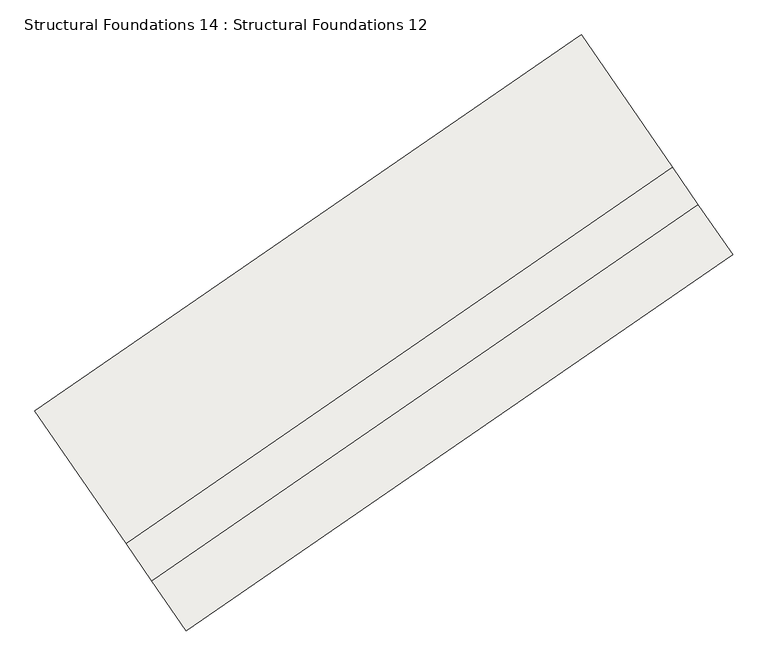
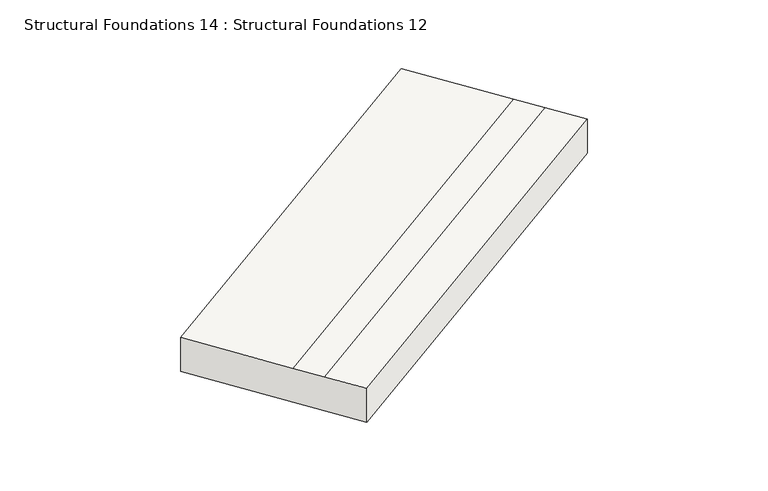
"""IFC4 building model written with IfcOpenShell, lengths in millimetres: slab geometry, Structural Foundations 14 : Structural Foundations 12."""

import ifcopenshell
import ifcopenshell.guid

model = None  # the IFC model being written
_history = None  # IfcOwnerHistory: only IFC2X3 demands one
_inside = {}  # id of a spatial element -> (the spatial element, [elements in it])
_under = {}  # id of a project, library or spatial element -> (it, [spatial elements below it])
_declared = {}  # id of a project -> (the project, [libraries it declares])
_typed = {}  # id of a type object -> (the type object, [elements of that type])
_made_of = {}  # id of a material, layer set ... -> (it, [elements and type objects made of it])


def new_model(schema):
    """Start an empty IFC model of exactly this schema.

    Asked for "IFC4X3", IfcOpenShell would pick the latest addendum, in which some entities
    have other attributes; the version numbers below select the first issue.
    IFC2X3 requires an IfcOwnerHistory on every rooted entity: one is made here for all.
    """
    global model, _history
    if schema == "IFC4X3":
        model = ifcopenshell.file(schema_version=(4, 3, 0, 0))
    else:
        model = ifcopenshell.file(schema=schema)
    _inside.clear()
    _under.clear()
    _declared.clear()
    _typed.clear()
    _made_of.clear()
    _history = None
    if model.schema == "IFC2X3":
        org = make("IfcOrganization", Name="unknown")
        user = make(
            "IfcPersonAndOrganization",
            ThePerson=make("IfcPerson", FamilyName="unknown"),
            TheOrganization=org,
        )
        app = make(
            "IfcApplication",
            ApplicationDeveloper=org,
            Version="unknown",
            ApplicationFullName="unknown",
            ApplicationIdentifier="unknown",
        )
        _history = make(
            "IfcOwnerHistory",
            OwningUser=user,
            OwningApplication=app,
            ChangeAction="ADDED",
            CreationDate=0,
        )
    return model


def make(cls, **values):
    """One entity of the class cls with the attributes given. An attribute that is None is left unset."""
    return model.create_entity(
        cls, **{name: value for name, value in values.items() if value is not None}
    )


def rooted(cls, **values):
    """An entity with a GlobalId (a new one), such as an element, a storey or a relation."""
    return make(cls, GlobalId=ifcopenshell.guid.new(), OwnerHistory=_history, **values)


def si_unit(unit_type, name, prefix=None):
    """IfcSIUnit, for example si_unit("LENGTHUNIT", "METRE", prefix="MILLI")."""
    return make("IfcSIUnit", UnitType=unit_type, Prefix=prefix, Name=name)


def assignment(units):
    """IfcUnitAssignment: the units of a project."""
    return None if units is None else make("IfcUnitAssignment", Units=units)


def point(xyz):
    """IfcCartesianPoint."""
    return None if xyz is None else make("IfcCartesianPoint", Coordinates=xyz)


def direction(xyz):
    """IfcDirection."""
    return None if xyz is None else make("IfcDirection", DirectionRatios=xyz)


def frame(location, z_axis=None, x_axis=None):
    """IfcAxis2Placement3D, a coordinate frame: its origin and axes. An axis left out is left unset."""
    return make(
        "IfcAxis2Placement3D",
        Location=point(location),
        Axis=direction(z_axis),
        RefDirection=direction(x_axis),
    )


def origin():
    """The frame at (0, 0, 0) with its axes left unset."""
    return frame((0.0, 0.0, 0.0))


def place(relative_to, where):
    """IfcLocalPlacement: puts the frame where relative to a parent placement (None: the world)."""
    return make(
        "IfcLocalPlacement", PlacementRelTo=relative_to, RelativePlacement=where
    )


def context(
    kind, dimensions, precision=None, world=None, true_north=None, identifier=None
):
    """IfcGeometricRepresentationContext, for example the 3D "Model" context."""
    return make(
        "IfcGeometricRepresentationContext",
        ContextIdentifier=identifier,
        ContextType=kind,
        CoordinateSpaceDimension=dimensions,
        Precision=precision,
        WorldCoordinateSystem=world,
        TrueNorth=true_north,
    )


def project(units=None, contexts=None):
    """IfcProject with its units and contexts."""
    return rooted(
        "IfcProject",
        Name="project",
        RepresentationContexts=contexts,
        UnitsInContext=assignment(units),
    )


def spatial(cls, under=None, at=None, **own):
    """A site, building, storey or space (cls), placed at a placement, below another one or the project."""
    s = rooted(cls, ObjectPlacement=at, **own)
    if under is not None:
        _under.setdefault(under.id(), (under, []))[1].append(s)
    return s


def faces_of(points, faces, orient=None, outer=None):
    """IfcFace entities. A face is a list of loops; a loop is a list of indices into points, from 0.

    orient and outer hold one flag for each loop. By default every Orientation is true, the
    first loop of a face is its IfcFaceOuterBound and the others are IfcFaceBound.
    """
    made = []
    for i, loops in enumerate(faces):
        bounds = []
        for j, loop in enumerate(loops):
            is_outer = j == 0 if outer is None else outer[i][j]
            bounds.append(
                make(
                    "IfcFaceOuterBound" if is_outer else "IfcFaceBound",
                    Bound=make("IfcPolyLoop", Polygon=[points[k] for k in loop]),
                    Orientation=True if orient is None else orient[i][j],
                )
            )
        made.append(make("IfcFace", Bounds=bounds))
    return made


def faceted_brep(points, faces, orient=None, outer=None, voids=None):
    """IfcFacetedBrep: a solid bounded by flat faces; with voids (closed shells), ...WithVoids."""
    shared = [point(p) for p in points]
    hull = make("IfcClosedShell", CfsFaces=faces_of(shared, faces, orient, outer))
    if voids is None:
        return make("IfcFacetedBrep", Outer=hull)
    return make(
        "IfcFacetedBrepWithVoids",
        Outer=hull,
        Voids=[
            make(cls, CfsFaces=faces_of(shared, fs, o, b)) for cls, fs, o, b in voids
        ],
    )


def shape(context_of_items, identifier, shape_type, items):
    """IfcShapeRepresentation: the items that make up one representation, for example the "Body"."""
    return make(
        "IfcShapeRepresentation",
        ContextOfItems=context_of_items,
        RepresentationIdentifier=identifier,
        RepresentationType=shape_type,
        Items=items,
    )


def source(mapping_origin, context_of_items, identifier, shape_type, items):
    """IfcRepresentationMap: a shape defined once, which mapped items show again and again."""
    return make(
        "IfcRepresentationMap",
        MappingOrigin=mapping_origin,
        MappedRepresentation=shape(context_of_items, identifier, shape_type, items),
    )


def transform(
    local_origin,
    x_axis=None,
    y_axis=None,
    z_axis=None,
    scale=None,
    scale2=None,
    scale3=None,
    uniform=True,
):
    """IfcCartesianTransformationOperator3D, or its non-uniform kind. x_axis, y_axis, z_axis: its Axis1, 2, 3."""
    if uniform:
        return make(
            "IfcCartesianTransformationOperator3D",
            Axis1=direction(x_axis),
            Axis2=direction(y_axis),
            LocalOrigin=point(local_origin),
            Scale=scale,
            Axis3=direction(z_axis),
        )
    return make(
        "IfcCartesianTransformationOperator3DnonUniform",
        Axis1=direction(x_axis),
        Axis2=direction(y_axis),
        LocalOrigin=point(local_origin),
        Scale=scale,
        Axis3=direction(z_axis),
        Scale2=scale2,
        Scale3=scale3,
    )


def mapped(mapping_source, mapping_target):
    """IfcMappedItem: shows the shape of a source again, moved by a transform."""
    return make(
        "IfcMappedItem", MappingSource=mapping_source, MappingTarget=mapping_target
    )


def made_of(thing, what):
    """Note that an element or type object is made of a material, layer set ...; save() writes the relation."""
    if what is not None:
        _made_of.setdefault(what.id(), (what, []))[1].append(thing)
    return thing


def element(
    cls,
    number,
    at=None,
    inside=None,
    cuts=None,
    type_object=None,
    material=None,
    context=None,
    identifier="Body",
    shape_type=None,
    held_by="IfcProductDefinitionShape",
    body=None,
    shapes=None,
    **own,
):
    """One element of the class cls, such as IfcWall. Its Tag is "e" and its number.

    at: its placement. inside: the storey or other place that contains it. cuts: it is an
    opening in that element (IfcRelVoidsElement). A single representation is given by context,
    identifier, shape_type and body (its items); several are given by shapes. held_by: the class
    of the entity that holds the representations. save() writes the other relations.
    """
    e = rooted(cls, Tag="e%d" % number, ObjectPlacement=at, **own)
    if body is not None:
        shapes = [shape(context, identifier, shape_type, body)]
    if shapes is not None:
        e.Representation = make(held_by, Representations=shapes)
    if inside is not None:
        _inside.setdefault(inside.id(), (inside, []))[1].append(e)
    if cuts is not None:
        rooted(
            "IfcRelVoidsElement", RelatingBuildingElement=cuts, RelatedOpeningElement=e
        )
    if type_object is not None:
        _typed.setdefault(type_object.id(), (type_object, []))[1].append(e)
    return made_of(e, material)


def aggregate(whole, parts):
    """IfcRelAggregates: a whole, such as a stair, and the parts it consists of."""
    return rooted("IfcRelAggregates", RelatingObject=whole, RelatedObjects=parts)


def save(model, path):
    """Write the relations noted so far, then the file.

    IfcRelAggregates (storeys below a building ...), IfcRelContainedInSpatialStructure (elements
    in a storey), IfcRelDefinesByType, IfcRelAssociatesMaterial and IfcRelDeclares: one each for
    every whole, place, type object, material and project.
    """
    for whole, parts in _under.values():
        aggregate(whole, parts)
    for where, things in _inside.values():
        rooted(
            "IfcRelContainedInSpatialStructure",
            RelatedElements=things,
            RelatingStructure=where,
        )
    for kind, things in _typed.values():
        rooted("IfcRelDefinesByType", RelatedObjects=things, RelatingType=kind)
    for what, things in _made_of.values():
        rooted("IfcRelAssociatesMaterial", RelatedObjects=things, RelatingMaterial=what)
    for by, libraries in _declared.values():
        rooted("IfcRelDeclares", RelatingContext=by, RelatedDefinitions=libraries)
    model.write(path)


def structural_foundations_14_structural_foundations_12_c00d232d(model_context):
    return source(origin(), model_context, "Body", "Brep", [
        faceted_brep([(-326293.7523234, -425871.5848977, 634036.0000001), (-326293.7523234, -425871.5848977, 634736.0000001), (-325099.6522155, -427605.1217257, 634735.9999998), (-324762.1274826, -428095.1238209, 634735.9999997), (-324308.3127144, -428753.9501693, 634735.9999996), (-324308.3127144, -428753.9501693, 634035.9999996), (-333458.4888558, -430806.8204971, 633962.0000001), (-331473.0492468, -433689.1857688, 633961.9999995), (-331473.0492468, -433689.1857688, 634661.9999995), (-331926.864015, -433030.3594203, 634661.9999997), (-332264.3887478, -432540.3573251, 634661.9999997), (-333458.4888558, -430806.8204971, 634662.0000001)], [[[0, 1, 2, 3, 4, 5]], [[6, 7, 8, 9, 10, 11]], [[6, 11, 1, 0]], [[11, 10, 2, 1]], [[10, 9, 3, 2]], [[9, 8, 4, 3]], [[8, 7, 5, 4]], [[7, 6, 0, 5]]]),
    ])


if __name__ == "__main__":
    model = new_model("IFC4")
    model_context = context("Model", 3, world=origin())
    ifc_project = project(units=[si_unit("LENGTHUNIT", "METRE", prefix="MILLI")], contexts=[model_context])
    site = spatial("IfcSite", under=ifc_project)
    building = spatial("IfcBuilding", under=site)
    placement = place(None, origin())
    structural_foundations_14_structural_foundations_12_shape = structural_foundations_14_structural_foundations_12_c00d232d(model_context)
    element("IfcSlab", 1, ObjectType="Structural Foundations 14 : Structural Foundations 12", at=placement, inside=building, context=model_context, shape_type="MappedRepresentation", body=[
        mapped(structural_foundations_14_structural_foundations_12_shape, transform((0.0, 0.0, 0.0), x_axis=(1.0, 0.0, 0.0), y_axis=(0.0, 1.0, 0.0), z_axis=(0.0, 0.0, 1.0))),
    ])
    save(model, "model.ifc")
